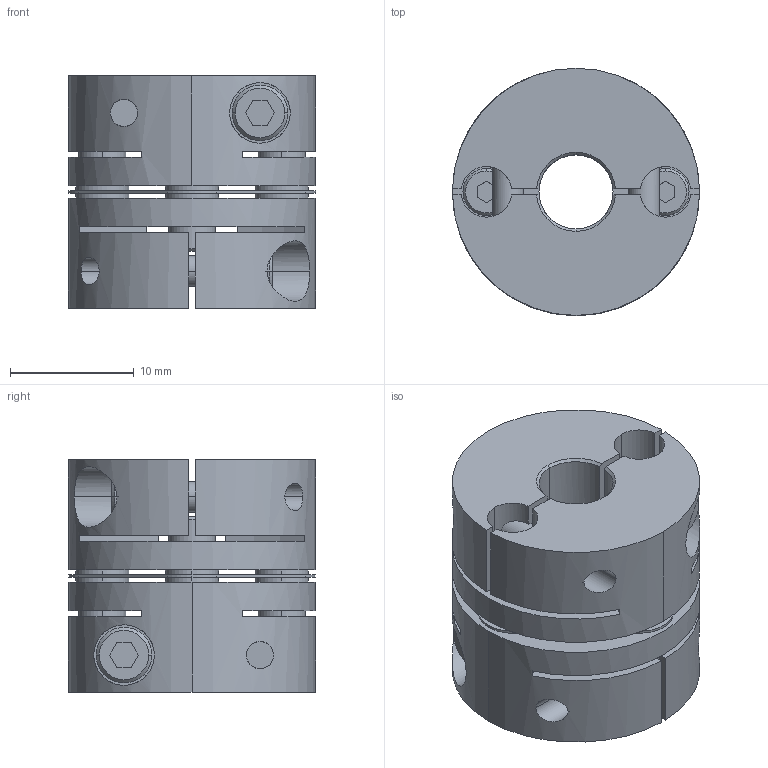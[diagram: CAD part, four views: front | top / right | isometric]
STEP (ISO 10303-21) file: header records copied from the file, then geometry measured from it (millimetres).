
FILE_DESCRIPTION((''),'2;1');
FILE_NAME('LAS-20C-6×8.stp','2011-08-10T08:57:38',(''),(''),'AutoCAD STEP 2000i','AutoCAD 2000i',', , ');
FILE_SCHEMA(('CONFIG_CONTROL_DESIGN'));
Length unit declared in the file: millimetre
Products named in the file (5): LAS-20C-4×4; 忣兜1; LA-2002-D04-1; LA-2002-D04; LAS20-ITA
Assembly tree (4 placements, depth 2):
  LAS-20C-4×4
    忣兜1
    LA-2002-D04-1
    LA-2002-D04
    LAS20-ITA
Bounding box: 20 x 20 x 18.8 mm (x, y, z)
Volume: 4329.2 mm3; surface area: 4485.3 mm2
Topology: 1 solids, 1 shells, 236 faces, 624 edges, 408 vertices
Faces by surface type: plane 112, cylinder 96, cone 28
Entity records: 8203 total; most frequent: CARTESIAN_POINT 2009, DIRECTION 1302, ORIENTED_EDGE 1248, EDGE_CURVE 624, AXIS2_PLACEMENT_3D 477, VERTEX_POINT 408, VECTOR 348, LINE 348
